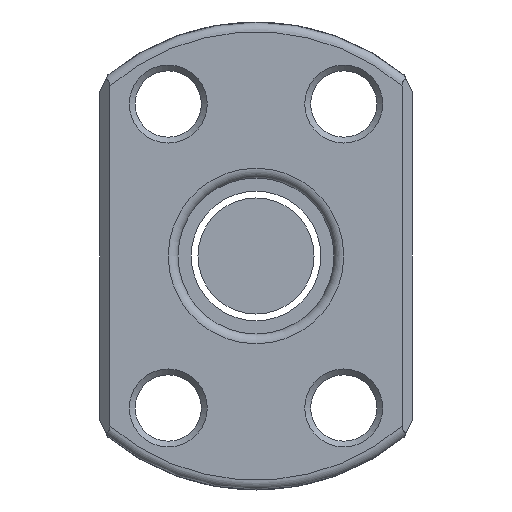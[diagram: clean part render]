
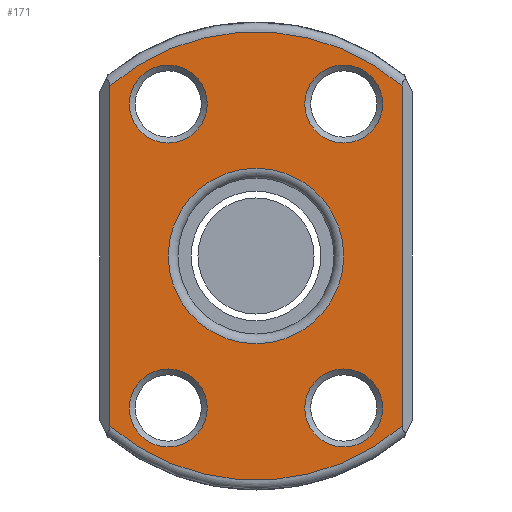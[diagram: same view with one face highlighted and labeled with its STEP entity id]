
A CAD part, front view. The second image highlights one B-rep face of the part: STEP entity #171.
In plain terms, the highlighted planar face has unit normal (0, -1, 0).
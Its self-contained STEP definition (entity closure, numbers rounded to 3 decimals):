
#68=LINE('',#1043,#92);
#69=LINE('',#1047,#93);
#92=VECTOR('',#856,1.);
#93=VECTOR('',#859,1.);
#128=PLANE('',#719);
#171=ADVANCED_FACE('',(#230,#231,#232,#233,#234,#235),#128,.T.);
#230=FACE_BOUND('',#294,.T.);
#231=FACE_BOUND('',#295,.T.);
#232=FACE_BOUND('',#296,.T.);
#233=FACE_BOUND('',#297,.T.);
#234=FACE_BOUND('',#298,.T.);
#235=FACE_BOUND('',#299,.T.);
#294=EDGE_LOOP('',(#385));
#295=EDGE_LOOP('',(#386));
#296=EDGE_LOOP('',(#387));
#297=EDGE_LOOP('',(#388));
#298=EDGE_LOOP('',(#389));
#299=EDGE_LOOP('',(#390,#391,#392,#393));
#385=ORIENTED_EDGE('',*,*,#598,.T.);
#386=ORIENTED_EDGE('',*,*,#599,.T.);
#387=ORIENTED_EDGE('',*,*,#600,.T.);
#388=ORIENTED_EDGE('',*,*,#601,.T.);
#389=ORIENTED_EDGE('',*,*,#602,.T.);
#390=ORIENTED_EDGE('',*,*,#603,.T.);
#391=ORIENTED_EDGE('',*,*,#604,.T.);
#392=ORIENTED_EDGE('',*,*,#605,.T.);
#393=ORIENTED_EDGE('',*,*,#606,.T.);
#537=VERTEX_POINT('',#1031);
#538=VERTEX_POINT('',#1033);
#539=VERTEX_POINT('',#1035);
#540=VERTEX_POINT('',#1037);
#541=VERTEX_POINT('',#1039);
#542=VERTEX_POINT('',#1041);
#543=VERTEX_POINT('',#1042);
#544=VERTEX_POINT('',#1044);
#545=VERTEX_POINT('',#1046);
#598=EDGE_CURVE('',#537,#537,#661,.T.);
#599=EDGE_CURVE('',#538,#538,#662,.T.);
#600=EDGE_CURVE('',#539,#539,#663,.T.);
#601=EDGE_CURVE('',#540,#540,#664,.T.);
#602=EDGE_CURVE('',#541,#541,#665,.T.);
#603=EDGE_CURVE('',#542,#543,#666,.T.);
#604=EDGE_CURVE('',#543,#544,#68,.T.);
#605=EDGE_CURVE('',#544,#545,#667,.T.);
#606=EDGE_CURVE('',#545,#542,#69,.T.);
#661=CIRCLE('',#712,2.);
#662=CIRCLE('',#713,2.);
#663=CIRCLE('',#714,2.);
#664=CIRCLE('',#715,2.);
#665=CIRCLE('',#716,4.5);
#666=CIRCLE('',#717,11.5);
#667=CIRCLE('',#718,11.5);
#712=AXIS2_PLACEMENT_3D('',#1030,#844,#845);
#713=AXIS2_PLACEMENT_3D('',#1032,#846,#847);
#714=AXIS2_PLACEMENT_3D('',#1034,#848,#849);
#715=AXIS2_PLACEMENT_3D('',#1036,#850,#851);
#716=AXIS2_PLACEMENT_3D('',#1038,#852,#853);
#717=AXIS2_PLACEMENT_3D('',#1040,#854,#855);
#718=AXIS2_PLACEMENT_3D('',#1045,#857,#858);
#719=AXIS2_PLACEMENT_3D('',#1048,#860,#861);
#844=DIRECTION('',(0.,1.,0.));
#845=DIRECTION('',(0.,0.,-1.));
#846=DIRECTION('',(0.,1.,0.));
#847=DIRECTION('',(0.,0.,-1.));
#848=DIRECTION('',(0.,1.,0.));
#849=DIRECTION('',(0.,0.,-1.));
#850=DIRECTION('',(0.,1.,0.));
#851=DIRECTION('',(0.,0.,-1.));
#852=DIRECTION('',(0.,1.,0.));
#853=DIRECTION('',(0.,0.,-1.));
#854=DIRECTION('',(0.,-1.,0.));
#855=DIRECTION('',(0.,0.,-1.));
#856=DIRECTION('',(0.,0.,-1.));
#857=DIRECTION('',(0.,-1.,0.));
#858=DIRECTION('',(0.,0.,-1.));
#859=DIRECTION('',(0.,0.,1.));
#860=DIRECTION('',(0.,-1.,0.));
#861=DIRECTION('',(0.,0.,-1.));
#1030=CARTESIAN_POINT('',(-4.5,0.,7.794));
#1031=CARTESIAN_POINT('',(-4.5,0.,5.794));
#1032=CARTESIAN_POINT('',(-4.5,0.,-7.794));
#1033=CARTESIAN_POINT('',(-4.5,0.,-9.794));
#1034=CARTESIAN_POINT('',(4.5,0.,7.794));
#1035=CARTESIAN_POINT('',(4.5,0.,5.794));
#1036=CARTESIAN_POINT('',(4.5,0.,-7.794));
#1037=CARTESIAN_POINT('',(4.5,0.,-9.794));
#1038=CARTESIAN_POINT('',(0.,0.,0.));
#1039=CARTESIAN_POINT('',(0.,0.,-4.5));
#1040=CARTESIAN_POINT('',(0.,0.,0.));
#1041=CARTESIAN_POINT('',(7.5,0.,8.718));
#1042=CARTESIAN_POINT('',(-7.5,0.,8.718));
#1043=CARTESIAN_POINT('',(-7.5,0.,0.));
#1044=CARTESIAN_POINT('',(-7.5,0.,-8.718));
#1045=CARTESIAN_POINT('',(0.,0.,0.));
#1046=CARTESIAN_POINT('',(7.5,0.,-8.718));
#1047=CARTESIAN_POINT('',(7.5,0.,0.));
#1048=CARTESIAN_POINT('',(0.,0.,0.));
